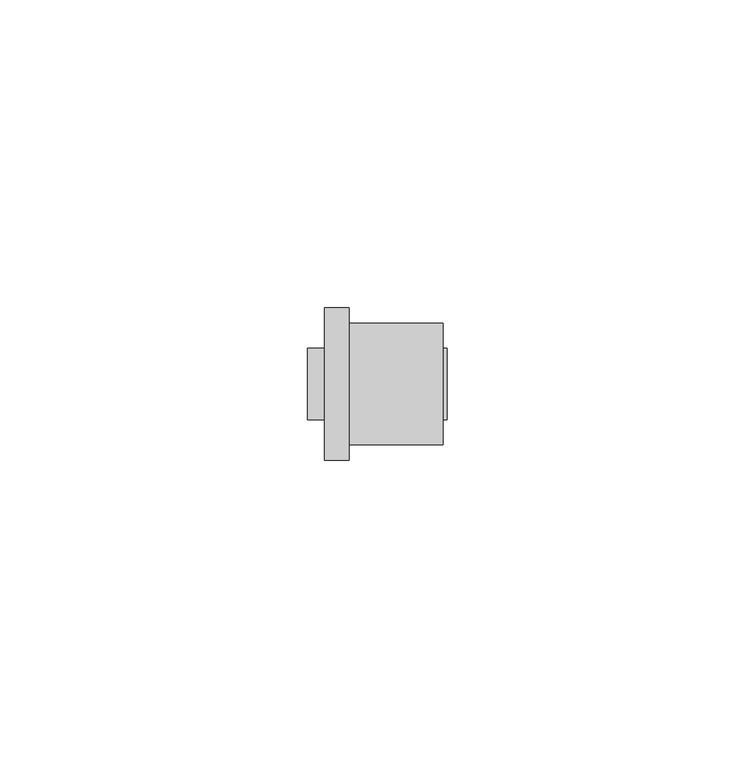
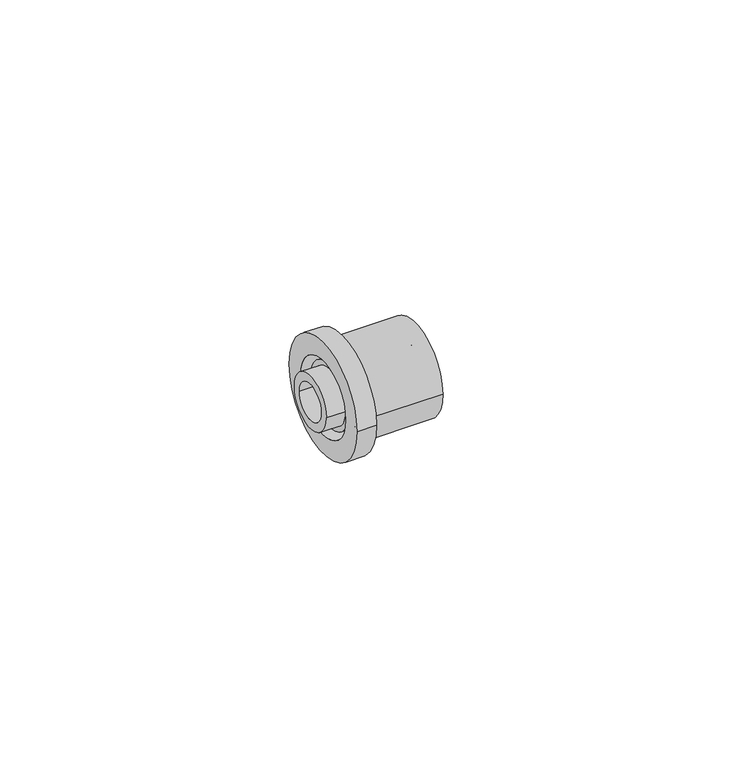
"""IFC4 building model written with IfcOpenShell, lengths in millimetres: pipe fitting geometry, FASTLOC_Blanking plug EX+ : FSL Bp EX+ AT."""

from ifc_helpers import new_model, si_unit, frame, origin, place, context, project, spatial, polyline, circle_curve, source, transform, mapped, element, save
from ifc_brep_helpers import plane_surface, cylinder_surface, revolved_surface, advanced_brep


def pipe_fitting_c58dc389(model_context):
    return source(origin(), model_context, "Body", "AdvancedBrep", [
        advanced_brep(
        [(6.7, 12.35, 0.0), (6.7, -12.35, 0.0), (2.7, -12.35, 0.0), (2.7, 12.35, 0.0), (22.0, 9.85, 0.0), (22.0, -9.85, 0.0), (6.7, -9.85, 0.0), (6.7, 9.85, 0.0), (2.7, 8.15, 0.0), (2.7, -8.15, 0.0), (22.0, -8.15, 0.0), (22.0, 8.15, 0.0)],
        [
            (0, 1, circle_curve(frame((6.7, 0.0, 0.0), z_axis=(-1.0, 0.0, 0.0), x_axis=(0.0, -1.0, 0.0)), 12.35)),
            (1, 2),
            (2, 3, circle_curve(frame((2.7, 0.0, 0.0), z_axis=(1.0, 0.0, 0.0), x_axis=(0.0, -1.0, 0.0)), 12.35)),
            (3, 0),
            (4, 5, circle_curve(frame((22.0, 0.0, 0.0), z_axis=(-1.0, 0.0, 0.0), x_axis=(0.0, -1.0, 0.0)), 9.85)),
            (5, 6),
            (6, 7, circle_curve(frame((6.7, 0.0, 0.0), z_axis=(1.0, 0.0, 0.0), x_axis=(0.0, -1.0, 0.0)), 9.85)),
            (7, 4),
            (8, 9, circle_curve(frame((2.7, 0.0, 0.0), z_axis=(-1.0, 0.0, 0.0), x_axis=(0.0, -1.0, 0.0)), 8.15)),
            (9, 10),
            (10, 11, circle_curve(frame((22.0, 0.0, 0.0), z_axis=(1.0, 0.0, 0.0), x_axis=(0.0, -1.0, 0.0)), 8.15)),
            (11, 8),
            (1, 0, circle_curve(frame((6.7, 0.0, 0.0), z_axis=(-1.0, 0.0, 0.0), x_axis=(0.0, 1.0, 0.0)), 12.35)),
            (3, 2, circle_curve(frame((2.7, 0.0, 0.0), z_axis=(1.0, 0.0, 0.0), x_axis=(0.0, 1.0, 0.0)), 12.35)),
            (6, 7, circle_curve(frame((6.7, 0.0, 0.0), z_axis=(-1.0, 0.0, 0.0), x_axis=(0.0, 1.0, 0.0)), 9.85)),
            (5, 4, circle_curve(frame((22.0, 0.0, 0.0), z_axis=(-1.0, 0.0, 0.0), x_axis=(0.0, 1.0, 0.0)), 9.85)),
            (10, 11, circle_curve(frame((22.0, 0.0, 0.0), z_axis=(-1.0, 0.0, 0.0), x_axis=(0.0, 1.0, 0.0)), 8.15)),
            (9, 8, circle_curve(frame((2.7, 0.0, 0.0), z_axis=(-1.0, 0.0, 0.0), x_axis=(0.0, 1.0, 0.0)), 8.15)),
        ],
        [
            cylinder_surface(frame((2.7, 0.0, 0.0), z_axis=(1.0, 0.0, 0.0), x_axis=(0.0, -1.0, 0.0)), 12.35),
            cylinder_surface(frame((2.7, 0.0, 0.0), z_axis=(1.0, 0.0, 0.0), x_axis=(0.0, -1.0, 0.0)), 9.85),
            revolved_surface(polyline([(22.0, -8.15, 0.0), (2.7, -8.15, 0.0)]), (2.7, 0.0, 0.0), (1.0, 0.0, 0.0)),
            cylinder_surface(frame((2.7, 0.0, 0.0), z_axis=(1.0, 0.0, 0.0), x_axis=(0.0, 1.0, 0.0)), 12.35),
            plane_surface(frame((6.7, 0.0, 0.0), z_axis=(1.0, 0.0, 0.0), x_axis=(0.0, 1.0, 0.0))),
            cylinder_surface(frame((2.7, 0.0, 0.0), z_axis=(1.0, 0.0, 0.0), x_axis=(0.0, 1.0, 0.0)), 9.85),
            plane_surface(frame((22.0, 0.0, 0.0), z_axis=(1.0, 0.0, 0.0), x_axis=(0.0, 1.0, 0.0))),
            revolved_surface(polyline([(22.0, 8.15, 0.0), (2.7, 8.15, 0.0)]), (2.7, 0.0, 0.0), (1.0, 0.0, 0.0)),
            plane_surface(frame((2.7, 0.0, 0.0), z_axis=(-1.0, 0.0, 0.0), x_axis=(0.0, 1.0, 0.0))),
        ],
        [
            (0, [[1, 2, 3, 4]]),
            (1, [[5, 6, 7, 8]]),
            (2, [[9, 10, 11, 12]]),
            (3, [[13, -4, 14, -2]]),
            (4, [[-13, -1], [15, -7]]),
            (5, [[16, -8, -15, -6]]),
            (6, [[-16, -5], [17, -11]]),
            (7, [[18, -12, -17, -10]]),
            (8, [[-14, -3], [-18, -9]]),
        ],
    ),
        advanced_brep(
        [(0.0, 3.95, 0.0), (0.0, -3.95, 0.0), (22.6, -3.95, 0.0), (22.6, 3.95, 0.0), (4.0, 5.8, 0.0), (4.0, -5.8, 0.0), (0.0, -5.8, 0.0), (0.0, 5.8, 0.0), (6.7, 6.9, 0.0), (6.7, -6.9, 0.0), (4.0, -6.9, 0.0), (4.0, 6.9, 0.0), (22.6, 5.8, 0.0), (22.6, -5.8, 0.0), (6.7, -5.8, 0.0), (6.7, 5.8, 0.0)],
        [
            (0, 1, circle_curve(frame((0.0, 0.0, 0.0), z_axis=(-1.0, 0.0, 0.0), x_axis=(0.0, -1.0, 0.0)), 3.95)),
            (1, 2),
            (2, 3, circle_curve(frame((22.6, 0.0, 0.0), z_axis=(1.0, 0.0, 0.0), x_axis=(0.0, -1.0, 0.0)), 3.95)),
            (3, 0),
            (4, 5, circle_curve(frame((4.0, 0.0, 0.0), z_axis=(-1.0, 0.0, 0.0), x_axis=(0.0, -1.0, 0.0)), 5.8)),
            (5, 6),
            (6, 7, circle_curve(frame((0.0, 0.0, 0.0), z_axis=(1.0, 0.0, 0.0), x_axis=(0.0, -1.0, 0.0)), 5.8)),
            (7, 4),
            (8, 9, circle_curve(frame((6.7, 0.0, 0.0), z_axis=(-1.0, 0.0, 0.0), x_axis=(0.0, -1.0, 0.0)), 6.9)),
            (9, 10),
            (10, 11, circle_curve(frame((4.0, 0.0, 0.0), z_axis=(1.0, 0.0, 0.0), x_axis=(0.0, -1.0, 0.0)), 6.9)),
            (11, 8),
            (12, 13, circle_curve(frame((22.6, 0.0, 0.0), z_axis=(-1.0, 0.0, 0.0), x_axis=(0.0, -1.0, 0.0)), 5.8)),
            (13, 14),
            (14, 15, circle_curve(frame((6.7, 0.0, 0.0), z_axis=(1.0, 0.0, 0.0), x_axis=(0.0, -1.0, 0.0)), 5.8)),
            (15, 12),
            (1, 0, circle_curve(frame((0.0, 0.0, 0.0), z_axis=(-1.0, 0.0, 0.0), x_axis=(0.0, 1.0, 0.0)), 3.95)),
            (3, 2, circle_curve(frame((22.6, 0.0, 0.0), z_axis=(1.0, 0.0, 0.0), x_axis=(0.0, 1.0, 0.0)), 3.95)),
            (6, 7, circle_curve(frame((0.0, 0.0, 0.0), z_axis=(-1.0, 0.0, 0.0), x_axis=(0.0, 1.0, 0.0)), 5.8)),
            (5, 4, circle_curve(frame((4.0, 0.0, 0.0), z_axis=(-1.0, 0.0, 0.0), x_axis=(0.0, 1.0, 0.0)), 5.8)),
            (10, 11, circle_curve(frame((4.0, 0.0, 0.0), z_axis=(-1.0, 0.0, 0.0), x_axis=(0.0, 1.0, 0.0)), 6.9)),
            (9, 8, circle_curve(frame((6.7, 0.0, 0.0), z_axis=(-1.0, 0.0, 0.0), x_axis=(0.0, 1.0, 0.0)), 6.9)),
            (14, 15, circle_curve(frame((6.7, 0.0, 0.0), z_axis=(-1.0, 0.0, 0.0), x_axis=(0.0, 1.0, 0.0)), 5.8)),
            (13, 12, circle_curve(frame((22.6, 0.0, 0.0), z_axis=(-1.0, 0.0, 0.0), x_axis=(0.0, 1.0, 0.0)), 5.8)),
        ],
        [
            revolved_surface(polyline([(22.6, -3.95, 0.0), (0.0, -3.95, 0.0)]), (0.0, 0.0, 0.0), (1.0, 0.0, 0.0)),
            cylinder_surface(frame((0.0, 0.0, 0.0), z_axis=(1.0, 0.0, 0.0), x_axis=(0.0, -1.0, 0.0)), 5.8),
            cylinder_surface(frame((0.0, 0.0, 0.0), z_axis=(1.0, 0.0, 0.0), x_axis=(0.0, -1.0, 0.0)), 6.9),
            revolved_surface(polyline([(22.6, 3.95, 0.0), (0.0, 3.95, 0.0)]), (0.0, 0.0, 0.0), (1.0, 0.0, 0.0)),
            plane_surface(frame((0.0, 0.0, 0.0), z_axis=(-1.0, 0.0, 0.0), x_axis=(0.0, 1.0, 0.0))),
            cylinder_surface(frame((0.0, 0.0, 0.0), z_axis=(1.0, 0.0, 0.0), x_axis=(0.0, 1.0, 0.0)), 5.8),
            plane_surface(frame((4.0, 0.0, 0.0), z_axis=(-1.0, 0.0, 0.0), x_axis=(0.0, 1.0, 0.0))),
            cylinder_surface(frame((0.0, 0.0, 0.0), z_axis=(1.0, 0.0, 0.0), x_axis=(0.0, 1.0, 0.0)), 6.9),
            plane_surface(frame((6.7, 0.0, 0.0), z_axis=(1.0, 0.0, 0.0), x_axis=(0.0, 1.0, 0.0))),
            plane_surface(frame((22.6, 0.0, 0.0), z_axis=(1.0, 0.0, 0.0), x_axis=(0.0, 1.0, 0.0))),
        ],
        [
            (0, [[1, 2, 3, 4]]),
            (1, [[5, 6, 7, 8]]),
            (2, [[9, 10, 11, 12]]),
            (1, [[13, 14, 15, 16]]),
            (3, [[17, -4, 18, -2]]),
            (4, [[19, -7], [-17, -1]]),
            (5, [[20, -8, -19, -6]]),
            (6, [[21, -11], [-20, -5]]),
            (7, [[22, -12, -21, -10]]),
            (8, [[-22, -9], [23, -15]]),
            (5, [[24, -16, -23, -14]]),
            (9, [[-24, -13], [-18, -3]]),
        ],
    ),
    ])


if __name__ == "__main__":
    model = new_model("IFC4")
    model_context = context("Model", 3, world=origin())
    ifc_project = project(units=[si_unit("LENGTHUNIT", "METRE", prefix="MILLI")], contexts=[model_context])
    site = spatial("IfcSite", under=ifc_project)
    building = spatial("IfcBuilding", under=site)
    placement = place(None, origin())
    pipe_fitting_shape = pipe_fitting_c58dc389(model_context)
    element("IfcPipeFitting", 1, ObjectType="FASTLOC_Blanking plug EX+ : FSL Bp EX+ AT", at=placement, inside=building, context=model_context, shape_type="MappedRepresentation", body=[
        mapped(pipe_fitting_shape, transform((0.0, 0.0, 0.0), x_axis=(1.0, 0.0, 0.0), y_axis=(0.0, 1.0, 0.0), z_axis=(0.0, 0.0, 1.0))),
    ])
    save(model, "model.ifc")
